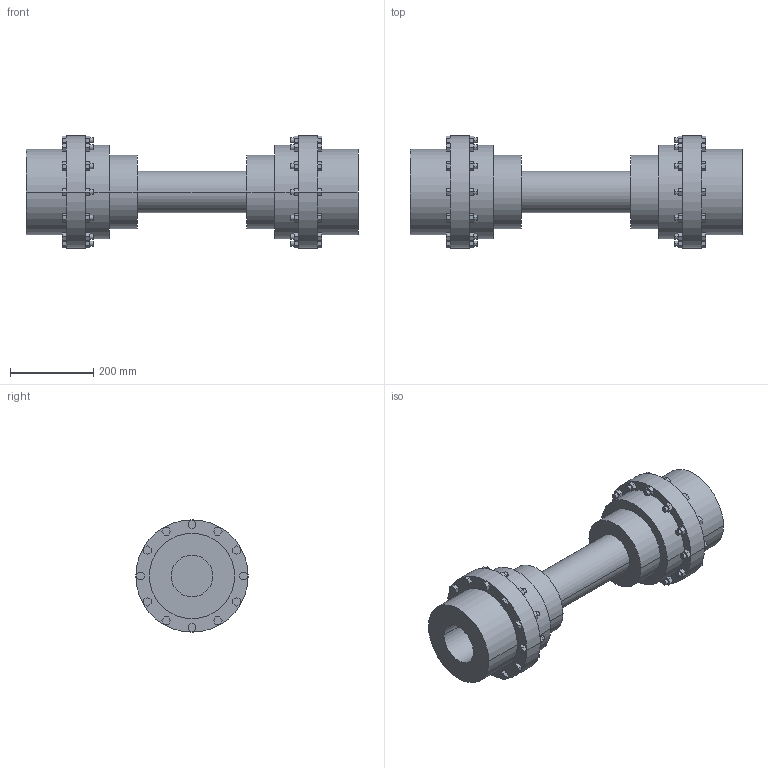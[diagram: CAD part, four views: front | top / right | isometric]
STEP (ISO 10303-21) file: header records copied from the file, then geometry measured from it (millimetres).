
FILE_DESCRIPTION((''),'2;1');
FILE_NAME('A19074600-0_ASM','2018-11-28T',('AB_Roschiwal'),('RENK AG'),'PRO/ENGINEER BY PARAMETRIC TECHNOLOGY CORPORATION, 2015440','PRO/ENGINEER BY PARAMETRIC TECHNOLOGY CORPORATION, 2015440','');
FILE_SCHEMA(('CONFIG_CONTROL_DESIGN'));
Length unit declared in the file: millimetre
Products named in the file (4): LBGK110_GEHAEUSE; LBGK110_NABE; LBGK110_WELLE; A19074600-0_ASM
Assembly tree (5 placements, depth 2):
  A19074600-0_ASM
    LBGK110_GEHAEUSE  x2
    LBGK110_NABE  x2
    LBGK110_WELLE
Bounding box: 798 x 270 x 270 mm (x, y, z)
Volume: 19741469.1 mm3; surface area: 1282060.9 mm2
Topology: 5 solids, 5 shells, 484 faces, 1158 edges, 772 vertices
Faces by surface type: plane 386, cylinder 98
Entity records: 7138 total; most frequent: CARTESIAN_POINT 1223, DIRECTION 1188, ORIENTED_EDGE 1164, EDGE_CURVE 582, VECTOR 482, LINE 482, VERTEX_POINT 388, AXIS2_PLACEMENT_3D 353
